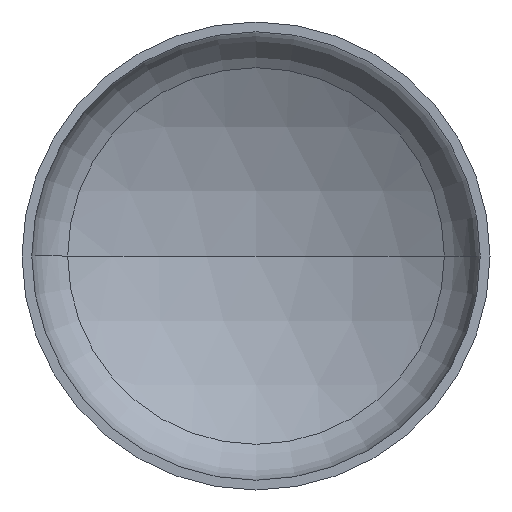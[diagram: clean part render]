
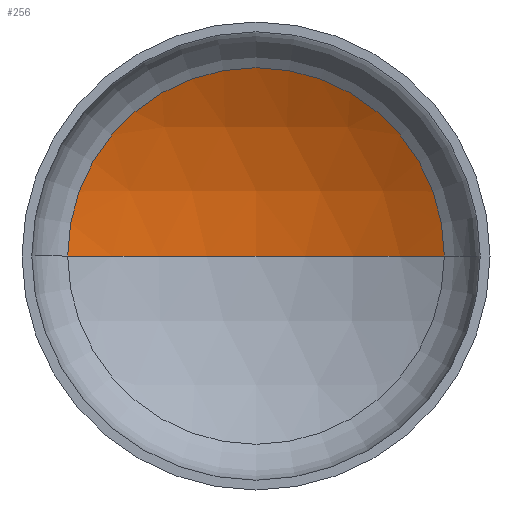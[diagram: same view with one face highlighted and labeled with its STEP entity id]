
A CAD part, front view. The second image highlights one B-rep face of the part: STEP entity #256.
In plain terms, the highlighted spherical face has radius 3600 mm.
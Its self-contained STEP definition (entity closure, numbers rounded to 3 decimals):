
#9 = AXIS2_PLACEMENT_3D ( 'NONE', #208, #201, #183 ) ;
#24 = AXIS2_PLACEMENT_3D ( 'NONE', #158, #211, #184 ) ;
#29 = EDGE_LOOP ( 'NONE', ( #109, #99, #33 ) ) ;
#33 = ORIENTED_EDGE ( 'NONE', *, *, #192, .T. ) ;
#43 = AXIS2_PLACEMENT_3D ( 'NONE', #126, #125, #81 ) ;
#48 = AXIS2_PLACEMENT_3D ( 'NONE', #280, #271, #269 ) ;
#81 = DIRECTION ( 'NONE',  ( -1., 0., 0. ) ) ;
#99 = ORIENTED_EDGE ( 'NONE', *, *, #200, .T. ) ;
#109 = ORIENTED_EDGE ( 'NONE', *, *, #372, .F. ) ;
#114 = VERTEX_POINT ( 'NONE', #243 ) ;
#122 = VERTEX_POINT ( 'NONE', #323 ) ;
#125 = DIRECTION ( 'NONE',  ( 0., 0., -1. ) ) ;
#126 = CARTESIAN_POINT ( 'NONE',  ( 0., -2410.877, 0. ) ) ;
#136 = VERTEX_POINT ( 'NONE', #258 ) ;
#158 = CARTESIAN_POINT ( 'NONE',  ( 0., -2410.877, 0. ) ) ;
#183 = DIRECTION ( 'NONE',  ( 1., 0., 0. ) ) ;
#184 = DIRECTION ( 'NONE',  ( -1., 0., 0. ) ) ;
#188 = FACE_OUTER_BOUND ( 'NONE', #29, .T. ) ;
#192 = EDGE_CURVE ( 'NONE', #136, #114, #209, .T. ) ;
#200 = EDGE_CURVE ( 'NONE', #122, #136, #264, .T. ) ;
#201 = DIRECTION ( 'NONE',  ( 0., 0., 1. ) ) ;
#208 = CARTESIAN_POINT ( 'NONE',  ( 0., -2410.877, 0. ) ) ;
#209 = CIRCLE ( 'NONE', #48, 1810.534 ) ;
#211 = DIRECTION ( 'NONE',  ( 0., 0., -1. ) ) ;
#243 = CARTESIAN_POINT ( 'NONE',  ( -1810.534, 700.709, 0. ) ) ;
#256 = ADVANCED_FACE ( 'NONE', ( #188 ), #363, .F. ) ;
#258 = CARTESIAN_POINT ( 'NONE',  ( 1810.534, 700.709, 0. ) ) ;
#264 = CIRCLE ( 'NONE', #43, 3600. ) ;
#269 = DIRECTION ( 'NONE',  ( 1., 0., 0. ) ) ;
#271 = DIRECTION ( 'NONE',  ( 0., -1., 0. ) ) ;
#280 = CARTESIAN_POINT ( 'NONE',  ( 0., 700.709, 0. ) ) ;
#287 = CIRCLE ( 'NONE', #9, 3600. ) ;
#323 = CARTESIAN_POINT ( 'NONE',  ( 0., 1189.123, 0. ) ) ;
#363 = SPHERICAL_SURFACE ( 'NONE', #24, 3600. ) ;
#372 = EDGE_CURVE ( 'NONE', #122, #114, #287, .T. ) ;
